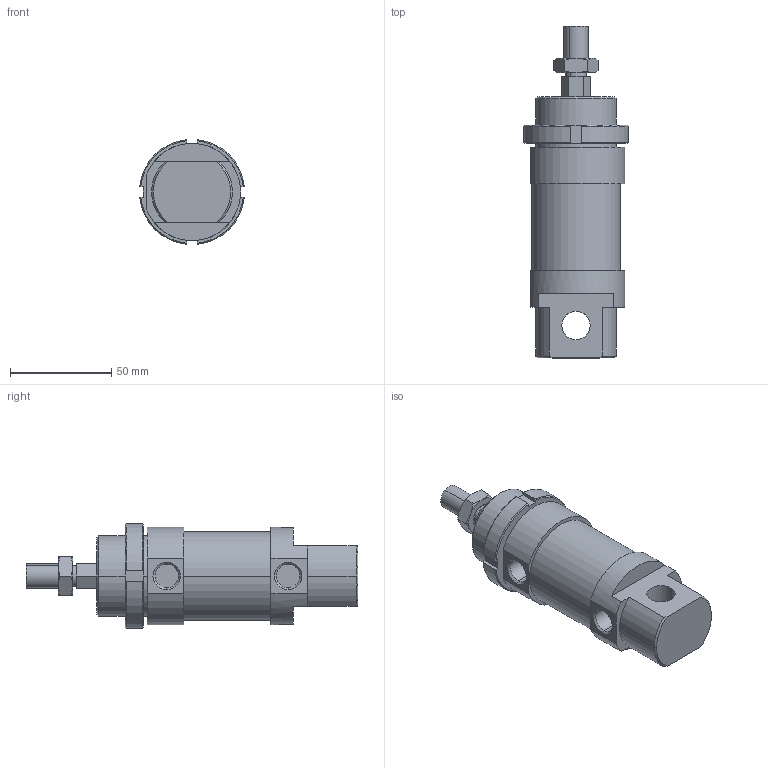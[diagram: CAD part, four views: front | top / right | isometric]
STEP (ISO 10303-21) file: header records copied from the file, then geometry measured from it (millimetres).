
FILE_DESCRIPTION((''),'2;1');
FILE_NAME('I:\DOC-EDP\Lib-3d\1200\CILINDRI\1260E\1260_40_0000_E.stp','2003-04-05T07:54:26',('maffial1'),(''),'Autodesk Inventor (R) 6.0','Autodesk Inventor (R) 6.0','');
FILE_SCHEMA(('AUTOMOTIVE_DESIGN { 1 0 10303 214 1 1 1 1 }'));
Length unit declared in the file: millimetre
Products named in the file (5): 1260_40_0000_E; S1260E_40_0; C1260E_40_0; 1200_40_05; 1200_40_06
Assembly tree (4 placements, depth 2):
  1260_40_0000_E
    S1260E_40_0
    C1260E_40_0
    1200_40_05
    1200_40_06
Bounding box: 51.76 x 164 x 51.76 mm (x, y, z)
Volume: 191034.7 mm3; surface area: 33985.8 mm2
Topology: 4 solids, 4 shells, 126 faces, 298 edges, 188 vertices
Faces by surface type: plane 52, cone 32, cylinder 22, bspline 20
Entity records: 3951 total; most frequent: CARTESIAN_POINT 1021, ORIENTED_EDGE 596, DIRECTION 590, EDGE_CURVE 298, AXIS2_PLACEMENT_3D 221, VERTEX_POINT 188, VECTOR 148, LINE 148
